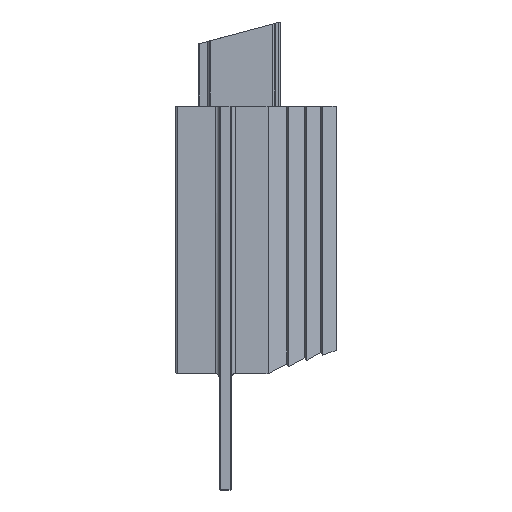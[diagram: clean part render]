
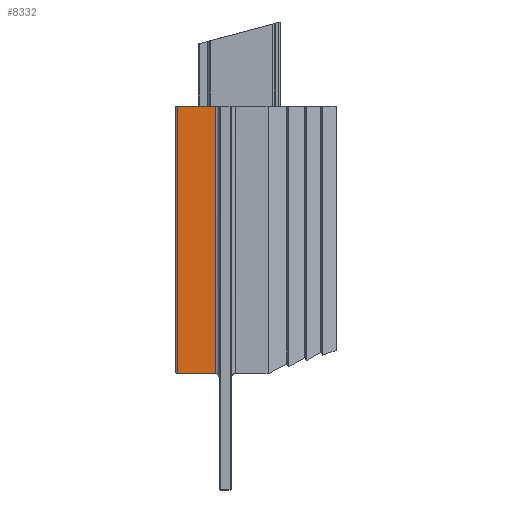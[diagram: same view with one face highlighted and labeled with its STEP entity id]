
A CAD part, left-side view. The second image highlights one B-rep face of the part: STEP entity #8332.
In plain terms, the highlighted planar face has unit normal (-1, 0, 0) as drawn and (0, 0, 1) by its records, which use the part's own axes.
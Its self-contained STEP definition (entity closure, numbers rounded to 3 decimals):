
#5567=DIRECTION('',(0.,-1.,0.));
#5568=VECTOR('',#5567,4.9);
#5569=CARTESIAN_POINT('',(50.,20.5,7.25));
#5570=LINE('',#5569,#5568);
#5945=DIRECTION('',(0.,-1.,0.));
#5946=VECTOR('',#5945,4.9);
#5947=CARTESIAN_POINT('',(15.5,20.5,7.25));
#5948=LINE('',#5947,#5946);
#5949=DIRECTION('',(-1.,0.,0.));
#5950=VECTOR('',#5949,34.5);
#5951=CARTESIAN_POINT('',(50.,20.5,7.25));
#5952=LINE('',#5951,#5950);
#5953=DIRECTION('',(-1.,0.,0.));
#5954=VECTOR('',#5953,34.5);
#5955=CARTESIAN_POINT('',(50.,15.6,7.25));
#5956=LINE('',#5955,#5954);
#7652=CARTESIAN_POINT('',(50.,20.5,7.25));
#7654=VERTEX_POINT('',#7652);
#7731=CARTESIAN_POINT('',(50.,15.6,7.25));
#7732=VERTEX_POINT('',#7731);
#7755=CARTESIAN_POINT('',(15.5,20.5,7.25));
#7756=CARTESIAN_POINT('',(15.5,15.6,7.25));
#7757=VERTEX_POINT('',#7755);
#7758=VERTEX_POINT('',#7756);
#8318=CARTESIAN_POINT('',(-50.,20.7,7.25));
#8319=DIRECTION('',(0.,0.,1.));
#8320=DIRECTION('',(0.,-1.,0.));
#8321=AXIS2_PLACEMENT_3D('',#8318,#8319,#8320);
#8322=PLANE('',#8321);
#8324=ORIENTED_EDGE('',*,*,#8323,.F.);
#8326=ORIENTED_EDGE('',*,*,#8325,.F.);
#8327=ORIENTED_EDGE('',*,*,#8107,.T.);
#8329=ORIENTED_EDGE('',*,*,#8328,.T.);
#8330=EDGE_LOOP('',(#8324,#8326,#8327,#8329));
#8331=FACE_OUTER_BOUND('',#8330,.F.);
#8332=ADVANCED_FACE('',(#8331),#8322,.T.);
#8107=EDGE_CURVE('',#7654,#7732,#5570,.T.);
#8323=EDGE_CURVE('',#7757,#7758,#5948,.T.);
#8325=EDGE_CURVE('',#7654,#7757,#5952,.T.);
#8328=EDGE_CURVE('',#7732,#7758,#5956,.T.);
